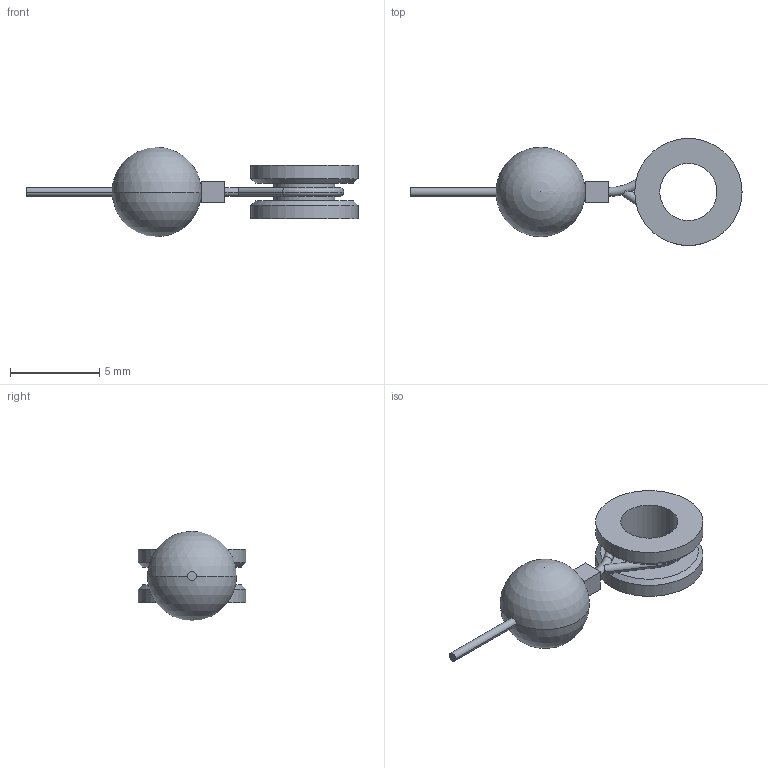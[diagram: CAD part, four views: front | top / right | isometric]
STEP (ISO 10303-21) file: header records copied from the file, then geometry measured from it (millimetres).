
FILE_DESCRIPTION (( 'STEP AP214' ), '1' );
FILE_NAME ('DS-025_DX-025ƒtƒbƒN_Assem.STEP', '2024-06-20T23:32:20', ( '' ), ( '' ), 'SwSTEP 2.0', 'SolidWorks 2023', '' );
FILE_SCHEMA (( 'AUTOMOTIVE_DESIGN' ));
Length unit declared in the file: millimetre
Products named in the file (3): DS_DX_Part2; DS-025_DX-025フック_Assem; DS_DX_Part3
Assembly tree (2 placements, depth 2):
  DS-025_DX-025フック_Assem
    DS_DX_Part2
    DS_DX_Part3
Bounding box: 18.57 x 6 x 5 mm (x, y, z)
Volume: 111.8 mm3; surface area: 288 mm2
Topology: 4 solids, 4 shells, 40 faces, 93 edges, 57 vertices
Faces by surface type: cylinder 16, plane 12, torus 6, cone 4, sphere 2
Entity records: 1256 total; most frequent: DIRECTION 228, CARTESIAN_POINT 213, ORIENTED_EDGE 178, AXIS2_PLACEMENT_3D 98, EDGE_CURVE 89, VERTEX_POINT 55, CIRCLE 53, EDGE_LOOP 44
